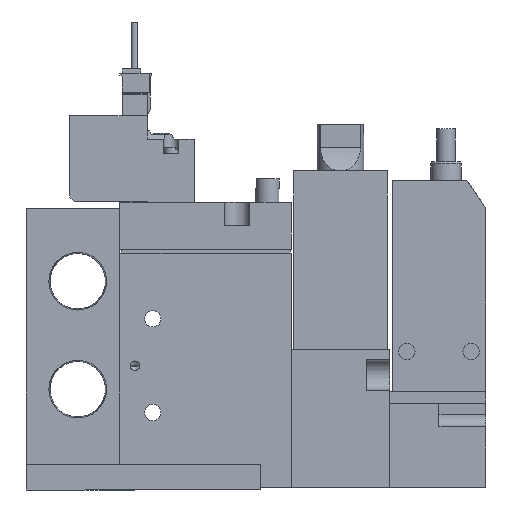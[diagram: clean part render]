
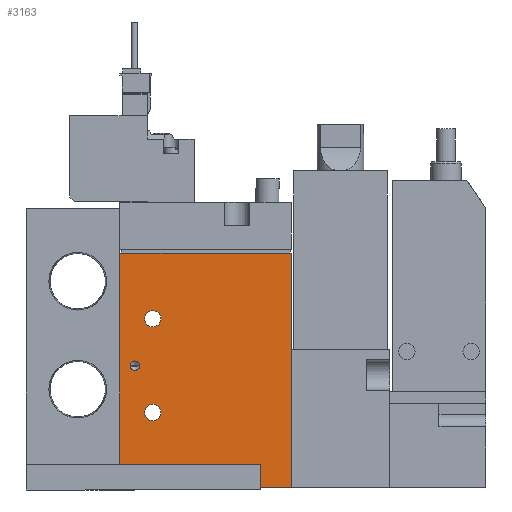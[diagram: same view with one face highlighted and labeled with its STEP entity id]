
A CAD part, left-side view. The second image highlights one B-rep face of the part: STEP entity #3163.
In plain terms, the highlighted planar face has unit normal (-1, 0, 0) as drawn and (1, 0, 0) by its records, which use the part's own axes.
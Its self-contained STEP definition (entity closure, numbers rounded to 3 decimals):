
#3163=ADVANCED_FACE('',(#4853,#4854,#4855,#4856),#4857,.F.);
#4853=FACE_BOUND('',#8345,.T.);
#4854=FACE_BOUND('',#8346,.T.);
#4855=FACE_BOUND('',#8347,.T.);
#4856=FACE_OUTER_BOUND('',#8348,.T.);
#4857=PLANE('',#8349);
#8345=EDGE_LOOP('',(#12359));
#8346=EDGE_LOOP('',(#12360));
#8347=EDGE_LOOP('',(#12361));
#8348=EDGE_LOOP('',(#12362,#12363,#12364,#12365));
#8349=AXIS2_PLACEMENT_3D('',#12366,#12367,#12368);
#12359=ORIENTED_EDGE('',*,*,#23691,.F.);
#12360=ORIENTED_EDGE('',*,*,#23692,.T.);
#12361=ORIENTED_EDGE('',*,*,#23693,.T.);
#12362=ORIENTED_EDGE('',*,*,#23694,.T.);
#12363=ORIENTED_EDGE('',*,*,#23695,.F.);
#12364=ORIENTED_EDGE('',*,*,#23696,.F.);
#12365=ORIENTED_EDGE('',*,*,#23697,.T.);
#12366=CARTESIAN_POINT('',(8.5,-19.444,50.0));
#12367=DIRECTION('',(-1.0,0.0,0.0));
#12368=DIRECTION('',(0.0,0.0,1.0));
#23691=EDGE_CURVE('',#27530,#27530,#27531,.T.);
#23692=EDGE_CURVE('',#27532,#27532,#27533,.T.);
#23693=EDGE_CURVE('',#27534,#27534,#27535,.T.);
#23694=EDGE_CURVE('',#27536,#27537,#27538,.T.);
#23695=EDGE_CURVE('',#27539,#27537,#27540,.T.);
#23696=EDGE_CURVE('',#27541,#27539,#27542,.T.);
#23697=EDGE_CURVE('',#27541,#27536,#27543,.T.);
#27530=VERTEX_POINT('',#34104);
#27531=CIRCLE('',#34105,1.0);
#27532=VERTEX_POINT('',#34106);
#27533=CIRCLE('',#34107,1.75);
#27534=VERTEX_POINT('',#34108);
#27535=CIRCLE('',#34109,1.75);
#27536=VERTEX_POINT('',#34110);
#27537=VERTEX_POINT('',#34111);
#27538=LINE('',#34112,#34113);
#27539=VERTEX_POINT('',#34114);
#27540=LINE('',#34115,#34116);
#27541=VERTEX_POINT('',#34117);
#27542=LINE('',#34118,#34119);
#27543=LINE('',#34120,#34121);
#34104=CARTESIAN_POINT('',(8.5,-17.244,26.0));
#34105=AXIS2_PLACEMENT_3D('',#43133,#43134,#43135);
#34106=CARTESIAN_POINT('',(8.5,-10.694,36.0));
#34107=AXIS2_PLACEMENT_3D('',#43136,#43137,#43138);
#34108=CARTESIAN_POINT('',(8.5,-10.694,16.0));
#34109=AXIS2_PLACEMENT_3D('',#43139,#43140,#43141);
#34110=CARTESIAN_POINT('',(8.5,-19.444,0.0));
#34111=CARTESIAN_POINT('',(8.5,17.056,0.0));
#34112=CARTESIAN_POINT('',(8.5,-19.444,0.0));
#34113=VECTOR('',#43142,1.0);
#34114=CARTESIAN_POINT('',(8.5,17.056,50.0));
#34115=CARTESIAN_POINT('',(8.5,17.056,50.0));
#34116=VECTOR('',#43143,1.0);
#34117=CARTESIAN_POINT('',(8.5,-19.444,50.0));
#34118=CARTESIAN_POINT('',(8.5,-19.444,50.0));
#34119=VECTOR('',#43144,1.0);
#34120=CARTESIAN_POINT('',(8.5,-19.444,50.0));
#34121=VECTOR('',#43145,1.0);
#43133=CARTESIAN_POINT('',(8.5,-16.244,26.0));
#43134=DIRECTION('',(1.0,0.,0.0));
#43135=DIRECTION('',(0.,-1.0,0.0));
#43136=CARTESIAN_POINT('',(8.5,-12.444,36.0));
#43137=DIRECTION('',(-1.0,0.0,0.0));
#43138=DIRECTION('',(0.0,1.0,0.0));
#43139=CARTESIAN_POINT('',(8.5,-12.444,16.0));
#43140=DIRECTION('',(-1.0,0.0,0.0));
#43141=DIRECTION('',(0.0,1.0,0.0));
#43142=DIRECTION('',(0.0,1.0,0.0));
#43143=DIRECTION('',(0.0,0.0,-1.0));
#43144=DIRECTION('',(0.0,1.0,0.0));
#43145=DIRECTION('',(0.0,0.0,-1.0));
